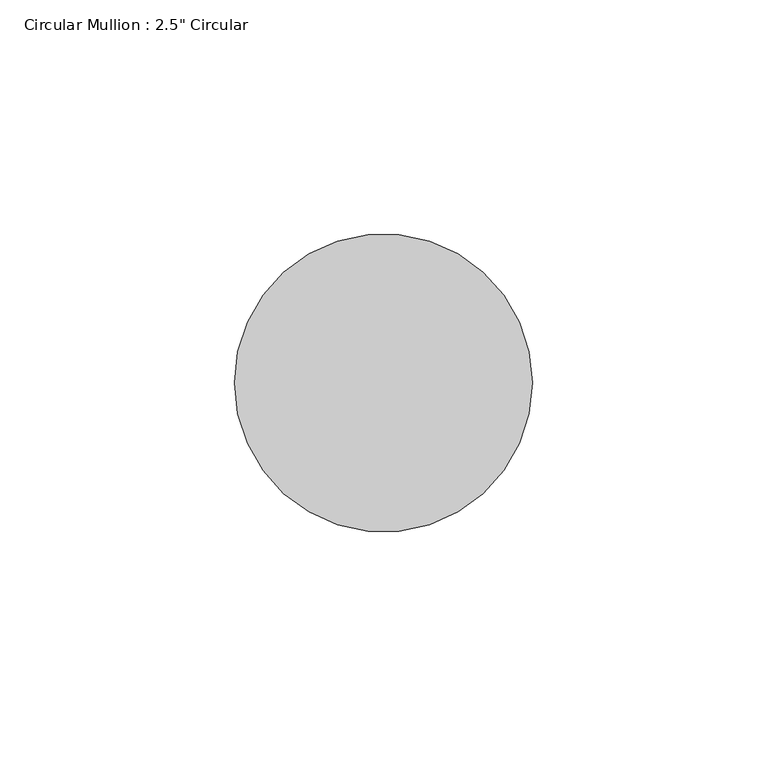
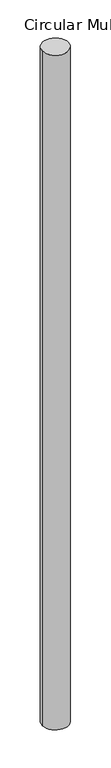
"""IFC4 building model written with IfcOpenShell, lengths in millimetres: member geometry."""

from ifc_helpers import new_model, si_unit, point, frame, origin, origin_2d, place, context, project, spatial, circle_curve, trimmed, segment, composite_curve, outline, extrude, source, transform, mapped, element, save


def member_f387274c(model_context):
    return source(origin(), model_context, "Body", "SweptSolid", [
        extrude(outline(composite_curve([segment(trimmed(circle_curve(origin_2d(), 31.75), [point((31.75, 0.0))], [point((-31.75, 0.0))], False, "CARTESIAN"), True, "CONTINUOUS"), segment(trimmed(circle_curve(origin_2d(), 31.75), [point((-31.75, 0.0))], [point((31.75, 0.0))], False, "CARTESIAN"), True, "CONTINUOUS")], self_intersect=False)), frame((0.0, 0.0, -1735.8920328), z_axis=(0.0, 0.0, 1.0), x_axis=(1.0, 0.0, 0.0)), (0.0, 0.0, 1.0), 1735.8920328),
    ])


if __name__ == "__main__":
    model = new_model("IFC4")
    model_context = context("Model", 3, world=origin())
    ifc_project = project(units=[si_unit("LENGTHUNIT", "METRE", prefix="MILLI")], contexts=[model_context])
    site = spatial("IfcSite", under=ifc_project)
    building = spatial("IfcBuilding", under=site)
    placement = place(None, origin())
    member_shape = member_f387274c(model_context)
    element("IfcMember", 1, ObjectType="Circular Mullion : 2.5\" Circular", at=placement, inside=building, context=model_context, shape_type="MappedRepresentation", body=[
        mapped(member_shape, transform((0.0, 0.0, 0.0), x_axis=(1.0, 0.0, 0.0), y_axis=(0.0, 1.0, 0.0), z_axis=(0.0, 0.0, 1.0))),
    ])
    save(model, "model.ifc")
